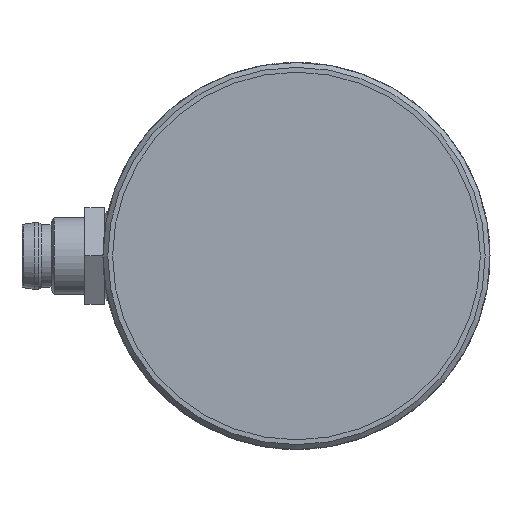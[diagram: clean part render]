
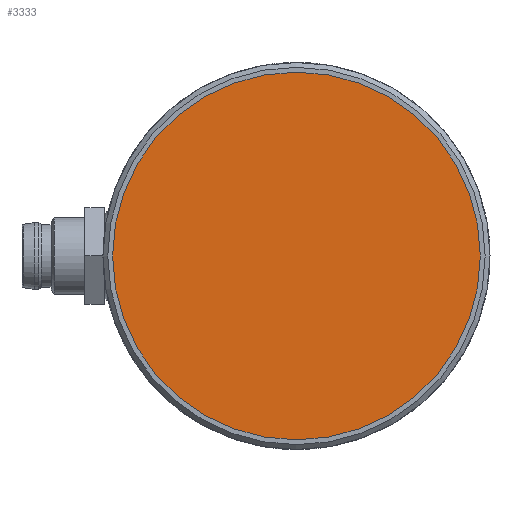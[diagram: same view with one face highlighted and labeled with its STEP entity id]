
A CAD part, left-side view. The second image highlights one B-rep face of the part: STEP entity #3333.
In plain terms, the highlighted planar face has unit normal (-1, 0, 0).
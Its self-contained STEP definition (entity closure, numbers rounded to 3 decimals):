
#490=CIRCLE('',#3571,19.);
#715=VERTEX_POINT('',#5192);
#1529=EDGE_CURVE('',#715,#715,#490,.T.);
#2104=ORIENTED_EDGE('',*,*,#1529,.T.);
#2759=EDGE_LOOP('',(#2104));
#3049=FACE_BOUND('',#2759,.T.);
#3333=ADVANCED_FACE('',(#3049),#6663,.T.);
#3571=AXIS2_PLACEMENT_3D('',#5191,#4059,#4060);
#3573=AXIS2_PLACEMENT_3D('',#5195,#4063,$);
#4059=DIRECTION('',(-1.,0.,0.));
#4060=DIRECTION('',(0.,0.,19.));
#4063=DIRECTION('',(-1.,0.,0.));
#5191=CARTESIAN_POINT('',(1.,0.,0.));
#5192=CARTESIAN_POINT('',(1.,0.,19.));
#5195=CARTESIAN_POINT('',(1.,0.,0.));
#6663=PLANE('',#3573);
